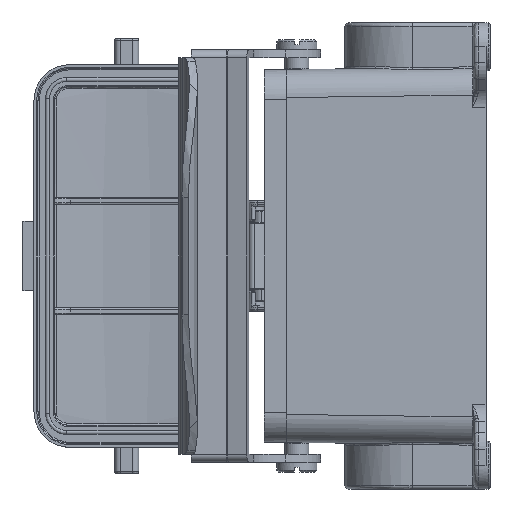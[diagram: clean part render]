
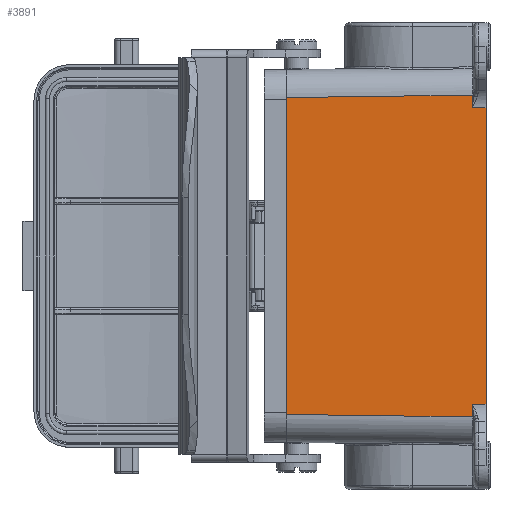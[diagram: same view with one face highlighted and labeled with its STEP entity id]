
A CAD part, left-side view. The second image highlights one B-rep face of the part: STEP entity #3891.
In plain terms, the highlighted planar face has unit normal (-1, 0.013, 0).
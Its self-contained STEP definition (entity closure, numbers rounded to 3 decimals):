
#901 = PLANE ( 'NONE',  #8448 ) ;
#1733 = EDGE_CURVE ( 'NONE', #30265, #12281, #9435, .T. ) ;
#2123 = VERTEX_POINT ( 'NONE', #11104 ) ;
#2236 = CARTESIAN_POINT ( 'NONE',  ( -21.5, 31.765, -49.123 ) ) ;
#2788 = EDGE_CURVE ( 'NONE', #27805, #27298, #28866, .T. ) ;
#2832 = EDGE_CURVE ( 'NONE', #30525, #30265, #27193, .T. ) ;
#3064 = VERTEX_POINT ( 'NONE', #12765 ) ;
#3204 = VERTEX_POINT ( 'NONE', #10490 ) ;
#3891 = ADVANCED_FACE ( 'NONE', ( #20783 ), #901, .T. ) ;
#5002 = DIRECTION ( 'NONE',  ( 0., 0., 1. ) ) ;
#5196 = CARTESIAN_POINT ( 'NONE',  ( -22.155, -18.235, 0. ) ) ;
#5202 = EDGE_CURVE ( 'NONE', #12281, #3064, #15661, .T. ) ;
#5576 = CARTESIAN_POINT ( 'NONE',  ( -21.5, 31.765, 39.751 ) ) ;
#6265 = DIRECTION ( 'NONE',  ( -1., 0.013, 0. ) ) ;
#6521 = DIRECTION ( 'NONE',  ( 0., 0., 1. ) ) ;
#6528 = EDGE_CURVE ( 'NONE', #2123, #30525, #32954, .T. ) ;
#8437 = VECTOR ( 'NONE', #8729, 1000. ) ;
#8448 = AXIS2_PLACEMENT_3D ( 'NONE', #28087, #6265, #25238 ) ;
#8729 = DIRECTION ( 'NONE',  ( -0.013, -1., -0.013 ) ) ;
#8887 = CARTESIAN_POINT ( 'NONE',  ( -22.109, -14.741, -49.123 ) ) ;
#9435 = LINE ( 'NONE', #2236, #24758 ) ;
#9864 = EDGE_LOOP ( 'NONE', ( #24078, #22750, #20934, #20345, #20484, #32228, #34927, #20594 ) ) ;
#10022 = CARTESIAN_POINT ( 'NONE',  ( -22.109, -14.741, 40.359 ) ) ;
#10490 = CARTESIAN_POINT ( 'NONE',  ( -22.155, -18.235, 37.183 ) ) ;
#11104 = CARTESIAN_POINT ( 'NONE',  ( -22.109, -14.741, 37.138 ) ) ;
#11171 = DIRECTION ( 'NONE',  ( 0., 0., -1. ) ) ;
#12281 = VERTEX_POINT ( 'NONE', #27511 ) ;
#12765 = CARTESIAN_POINT ( 'NONE',  ( -22.109, -14.741, -40.359 ) ) ;
#13829 = EDGE_CURVE ( 'NONE', #3204, #2123, #25201, .T. ) ;
#15661 = LINE ( 'NONE', #34947, #8437 ) ;
#17106 = LINE ( 'NONE', #21222, #26427 ) ;
#18696 = VECTOR ( 'NONE', #29614, 1000. ) ;
#20020 = EDGE_CURVE ( 'NONE', #3064, #27805, #17106, .T. ) ;
#20345 = ORIENTED_EDGE ( 'NONE', *, *, #1733, .T. ) ;
#20400 = VECTOR ( 'NONE', #23943, 1000. ) ;
#20484 = ORIENTED_EDGE ( 'NONE', *, *, #5202, .T. ) ;
#20594 = ORIENTED_EDGE ( 'NONE', *, *, #28246, .T. ) ;
#20783 = FACE_OUTER_BOUND ( 'NONE', #9864, .T. ) ;
#20934 = ORIENTED_EDGE ( 'NONE', *, *, #2832, .T. ) ;
#21218 = CARTESIAN_POINT ( 'NONE',  ( -22.109, -14.741, -37.138 ) ) ;
#21222 = CARTESIAN_POINT ( 'NONE',  ( -22.109, -14.741, -49.123 ) ) ;
#22750 = ORIENTED_EDGE ( 'NONE', *, *, #6528, .T. ) ;
#23503 = VECTOR ( 'NONE', #27107, 1000. ) ;
#23943 = DIRECTION ( 'NONE',  ( 0., 0., 1. ) ) ;
#24078 = ORIENTED_EDGE ( 'NONE', *, *, #13829, .T. ) ;
#24404 = CARTESIAN_POINT ( 'NONE',  ( -21.496, 32.059, 36.525 ) ) ;
#24758 = VECTOR ( 'NONE', #11171, 1000. ) ;
#25201 = LINE ( 'NONE', #24404, #23503 ) ;
#25238 = DIRECTION ( 'NONE',  ( -0.013, -1., 0. ) ) ;
#26427 = VECTOR ( 'NONE', #5002, 1000. ) ;
#26903 = CARTESIAN_POINT ( 'NONE',  ( -22.109, -14.741, 40.359 ) ) ;
#27107 = DIRECTION ( 'NONE',  ( 0.013, 1., -0.013 ) ) ;
#27193 = LINE ( 'NONE', #26903, #18696 ) ;
#27298 = VERTEX_POINT ( 'NONE', #28637 ) ;
#27511 = CARTESIAN_POINT ( 'NONE',  ( -21.5, 31.765, -39.751 ) ) ;
#27805 = VERTEX_POINT ( 'NONE', #21218 ) ;
#28087 = CARTESIAN_POINT ( 'NONE',  ( -21.5, 31.765, -49.123 ) ) ;
#28246 = EDGE_CURVE ( 'NONE', #27298, #3204, #34390, .T. ) ;
#28637 = CARTESIAN_POINT ( 'NONE',  ( -22.155, -18.235, -37.183 ) ) ;
#28866 = LINE ( 'NONE', #31778, #29311 ) ;
#29311 = VECTOR ( 'NONE', #29499, 1000. ) ;
#29499 = DIRECTION ( 'NONE',  ( -0.013, -1., -0.013 ) ) ;
#29614 = DIRECTION ( 'NONE',  ( 0.013, 1., -0.013 ) ) ;
#30265 = VERTEX_POINT ( 'NONE', #5576 ) ;
#30525 = VERTEX_POINT ( 'NONE', #10022 ) ;
#31778 = CARTESIAN_POINT ( 'NONE',  ( -22.109, -14.741, -37.138 ) ) ;
#32108 = VECTOR ( 'NONE', #6521, 1000. ) ;
#32228 = ORIENTED_EDGE ( 'NONE', *, *, #20020, .T. ) ;
#32954 = LINE ( 'NONE', #8887, #32108 ) ;
#34390 = LINE ( 'NONE', #5196, #20400 ) ;
#34927 = ORIENTED_EDGE ( 'NONE', *, *, #2788, .T. ) ;
#34947 = CARTESIAN_POINT ( 'NONE',  ( -21.5, 31.765, -39.751 ) ) ;
